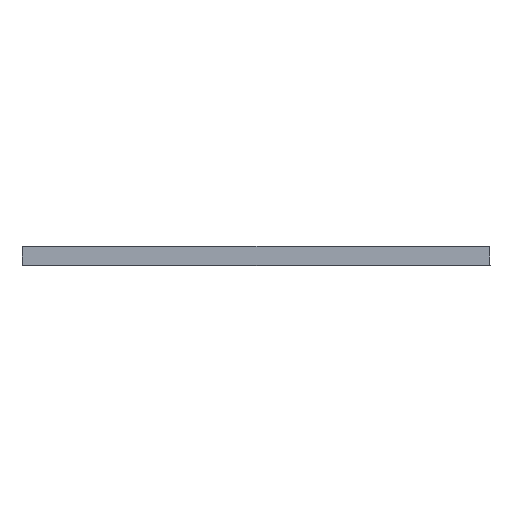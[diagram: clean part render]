
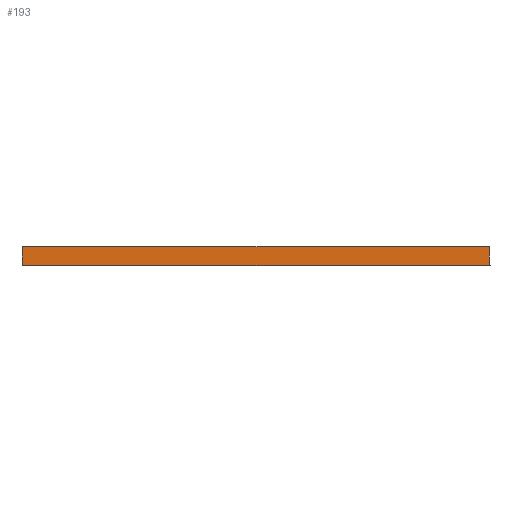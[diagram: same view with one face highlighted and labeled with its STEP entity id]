
A CAD part, front view. The second image highlights one B-rep face of the part: STEP entity #193.
In plain terms, the highlighted planar face has unit normal (0, -1, 0.009).
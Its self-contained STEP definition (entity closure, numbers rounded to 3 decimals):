
#193=ADVANCED_FACE('',(#313),#1941,.T.);
#313=FACE_OUTER_BOUND('',#484,.T.);
#484=EDGE_LOOP('',(#1015,#1016,#1017,#1018));
#1015=ORIENTED_EDGE('',*,*,#1392,.T.);
#1016=ORIENTED_EDGE('',*,*,#1377,.T.);
#1017=ORIENTED_EDGE('',*,*,#1394,.T.);
#1018=ORIENTED_EDGE('',*,*,#1378,.T.);
#1377=EDGE_CURVE('',#1899,#1900,#1497,.T.);
#1378=EDGE_CURVE('',#1901,#1898,#1498,.T.);
#1392=EDGE_CURVE('',#1898,#1899,#1511,.T.);
#1394=EDGE_CURVE('',#1900,#1901,#1512,.T.);
#1497=B_SPLINE_CURVE_WITH_KNOTS('',1,(#15440,#15441),.UNSPECIFIED.,.F.,
 .F.,(2,2),(0.,797.441),.UNSPECIFIED.);
#1498=B_SPLINE_CURVE_WITH_KNOTS('',1,(#15442,#15443),.UNSPECIFIED.,.F.,
 .F.,(2,2),(0.,797.982),.UNSPECIFIED.);
#1511=B_SPLINE_CURVE_WITH_KNOTS('',1,(#15498,#15499),.UNSPECIFIED.,.F.,
 .F.,(2,2),(-31.002,0.),.UNSPECIFIED.);
#1512=B_SPLINE_CURVE_WITH_KNOTS('',1,(#15503,#15504),.UNSPECIFIED.,.F.,
 .F.,(2,2),(-31.002,0.),.UNSPECIFIED.);
#1898=VERTEX_POINT('',#14712);
#1899=VERTEX_POINT('',#14713);
#1900=VERTEX_POINT('',#14714);
#1901=VERTEX_POINT('',#14715);
#1941=PLANE('',#2191);
#2191=AXIS2_PLACEMENT_3D('',#3976,#2294,$);
#2294=DIRECTION('',(0.,-1.,0.009));
#3976=CARTESIAN_POINT('',(1.009,-399.721,29.009));
#14712=CARTESIAN_POINT('',(798.991,-399.991,-1.991));
#14713=CARTESIAN_POINT('',(798.721,-399.721,29.009));
#14714=CARTESIAN_POINT('',(1.279,-399.721,29.009));
#14715=CARTESIAN_POINT('',(1.009,-399.991,-1.991));
#15440=CARTESIAN_POINT('',(798.721,-399.721,29.009));
#15441=CARTESIAN_POINT('',(1.279,-399.721,29.009));
#15442=CARTESIAN_POINT('',(1.009,-399.991,-1.991));
#15443=CARTESIAN_POINT('',(798.991,-399.991,-1.991));
#15498=CARTESIAN_POINT('',(798.991,-399.991,-1.991));
#15499=CARTESIAN_POINT('',(798.721,-399.721,29.009));
#15503=CARTESIAN_POINT('',(1.279,-399.721,29.009));
#15504=CARTESIAN_POINT('',(1.009,-399.991,-1.991));
